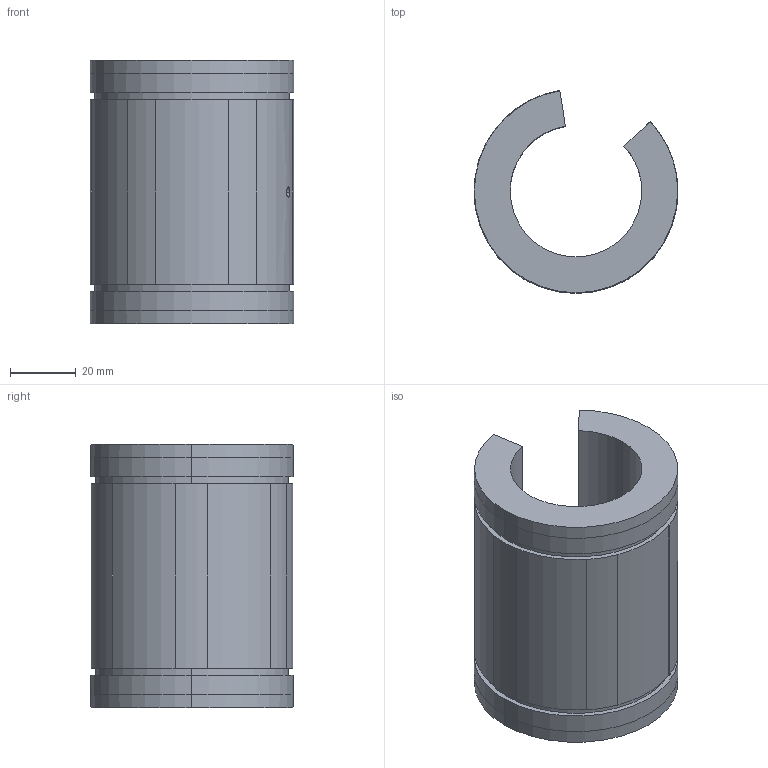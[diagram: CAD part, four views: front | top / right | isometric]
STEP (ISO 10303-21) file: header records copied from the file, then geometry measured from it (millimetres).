
FILE_DESCRIPTION((''),'2;1');
FILE_NAME('C:\Documents and Settings\ｿﾀﾀ蠑ｷ1\ｹﾙﾅﾁ ﾈｭｸ饅\ｺﾎﾇｰﾆﾄﾀﾏ\ﾁｦﾇｰ\LMES__UUOP\LMES40UUOP.stp','2005-06-15T14:08:24',('ｿﾀﾀ蠑ｷ1'),(''),'Autodesk Inventor 9','Autodesk Inventor 9','');
FILE_SCHEMA(('AUTOMOTIVE_DESIGN { 1 0 10303 214 1 1 1 1 }'));
Length unit declared in the file: millimetre
Products named in the file (1): LMES__OP
Bounding box: 62 x 61.6 x 80 mm (x, y, z)
Volume: 117273.5 mm3; surface area: 27284.4 mm2
Topology: 1 solids, 1 shells, 53 faces, 146 edges, 96 vertices
Faces by surface type: cylinder 28, plane 19, cone 6
Entity records: 1761 total; most frequent: CARTESIAN_POINT 330, DIRECTION 312, ORIENTED_EDGE 292, EDGE_CURVE 146, AXIS2_PLACEMENT_3D 114, VERTEX_POINT 96, VECTOR 84, LINE 84
